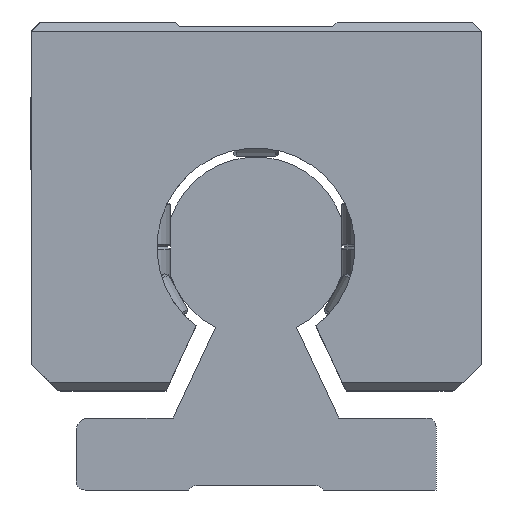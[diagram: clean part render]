
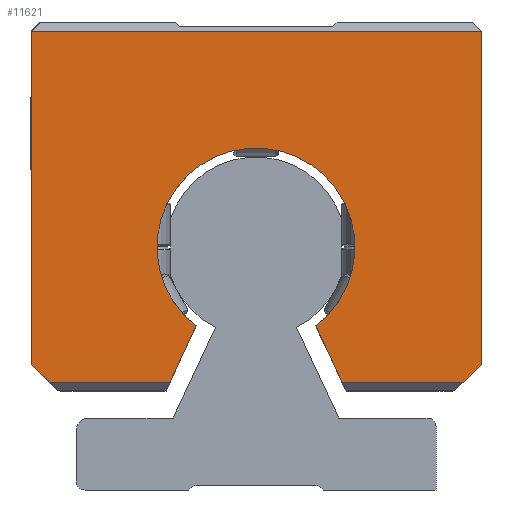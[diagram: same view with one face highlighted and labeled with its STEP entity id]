
A CAD part, left-side view. The second image highlights one B-rep face of the part: STEP entity #11621.
In plain terms, the highlighted planar face has unit normal (-1, 0, 0).
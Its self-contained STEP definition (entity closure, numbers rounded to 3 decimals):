
#10145=CARTESIAN_POINT('',(245.531,-25.,51.));
#10146=VERTEX_POINT('',#10145);
#10155=CARTESIAN_POINT('',(245.531,-25.,14.));
#10156=VERTEX_POINT('',#10155);
#10157=CARTESIAN_POINT('',(245.531,-25.,51.));
#10158=DIRECTION('',(0.0,0.0,-1.0));
#10159=VECTOR('',#10158,37.);
#10160=LINE('',#10157,#10159);
#10161=EDGE_CURVE('',#10146,#10156,#10160,.T.);
#10388=CARTESIAN_POINT('',(245.531,-6.632,18.224));
#10389=VERTEX_POINT('',#10388);
#10396=CARTESIAN_POINT('',(245.531,6.632,18.224));
#10397=VERTEX_POINT('',#10396);
#10398=CARTESIAN_POINT('',(245.531,0.,27.0));
#10399=DIRECTION('',(-1.0,0.0,0.0));
#10400=DIRECTION('',(0.0,-1.0,0.0));
#10401=AXIS2_PLACEMENT_3D('',#10398,#10399,#10400);
#10402=CIRCLE('',#10401,11.0);
#10403=EDGE_CURVE('',#10389,#10397,#10402,.T.);
#11237=CARTESIAN_POINT('',(245.531,25.,51.));
#11238=VERTEX_POINT('',#11237);
#11245=CARTESIAN_POINT('',(245.531,25.,51.));
#11246=DIRECTION('',(0.0,-1.0,0.0));
#11247=VECTOR('',#11246,50.0);
#11248=LINE('',#11245,#11247);
#11249=EDGE_CURVE('',#11238,#10146,#11248,.T.);
#11259=CARTESIAN_POINT('',(245.531,23.,12.));
#11260=VERTEX_POINT('',#11259);
#11277=CARTESIAN_POINT('',(245.531,9.534,12.));
#11278=VERTEX_POINT('',#11277);
#11285=CARTESIAN_POINT('',(245.531,9.534,12.));
#11286=DIRECTION('',(0.0,1.0,0.0));
#11287=VECTOR('',#11286,13.466);
#11288=LINE('',#11285,#11287);
#11289=EDGE_CURVE('',#11278,#11260,#11288,.T.);
#11354=CARTESIAN_POINT('',(245.531,25.,14.));
#11355=VERTEX_POINT('',#11354);
#11356=CARTESIAN_POINT('',(245.531,23.,12.));
#11357=DIRECTION('',(0.0,0.707,0.707));
#11358=VECTOR('',#11357,2.828);
#11359=LINE('',#11356,#11358);
#11360=EDGE_CURVE('',#11260,#11355,#11359,.T.);
#11547=CARTESIAN_POINT('',(245.531,-23.,12.));
#11548=VERTEX_POINT('',#11547);
#11549=CARTESIAN_POINT('',(245.531,-25.,14.));
#11550=DIRECTION('',(0.0,0.707,-0.707));
#11551=VECTOR('',#11550,2.828);
#11552=LINE('',#11549,#11551);
#11553=EDGE_CURVE('',#10156,#11548,#11552,.T.);
#11571=CARTESIAN_POINT('',(245.531,-9.534,12.));
#11572=VERTEX_POINT('',#11571);
#11573=CARTESIAN_POINT('',(245.531,-23.,12.));
#11574=DIRECTION('',(0.0,1.0,0.0));
#11575=VECTOR('',#11574,13.466);
#11576=LINE('',#11573,#11575);
#11577=EDGE_CURVE('',#11548,#11572,#11576,.T.);
#11589=CARTESIAN_POINT('',(245.531,-17.,51.75));
#11590=DIRECTION('',(1.0,0.0,0.0));
#11591=DIRECTION('',(0.0,0.0,-1.0));
#11592=AXIS2_PLACEMENT_3D('',#11589,#11590,#11591);
#11593=PLANE('',#11592);
#11594=ORIENTED_EDGE('',*,*,#11289,.F.);
#11595=CARTESIAN_POINT('',(245.531,6.632,18.224));
#11596=DIRECTION('',(0.0,0.423,-0.906));
#11597=VECTOR('',#11596,6.867);
#11598=LINE('',#11595,#11597);
#11599=EDGE_CURVE('',#10397,#11278,#11598,.T.);
#11600=ORIENTED_EDGE('',*,*,#11599,.F.);
#11601=ORIENTED_EDGE('',*,*,#10403,.F.);
#11602=CARTESIAN_POINT('',(245.531,-9.534,12.));
#11603=DIRECTION('',(0.0,0.423,0.906));
#11604=VECTOR('',#11603,6.867);
#11605=LINE('',#11602,#11604);
#11606=EDGE_CURVE('',#11572,#10389,#11605,.T.);
#11607=ORIENTED_EDGE('',*,*,#11606,.F.);
#11608=ORIENTED_EDGE('',*,*,#11577,.F.);
#11609=ORIENTED_EDGE('',*,*,#11553,.F.);
#11610=ORIENTED_EDGE('',*,*,#10161,.F.);
#11611=ORIENTED_EDGE('',*,*,#11249,.F.);
#11612=CARTESIAN_POINT('',(245.531,25.,14.));
#11613=DIRECTION('',(0.0,0.0,1.0));
#11614=VECTOR('',#11613,37.);
#11615=LINE('',#11612,#11614);
#11616=EDGE_CURVE('',#11355,#11238,#11615,.T.);
#11617=ORIENTED_EDGE('',*,*,#11616,.F.);
#11618=ORIENTED_EDGE('',*,*,#11360,.F.);
#11619=EDGE_LOOP('',(#11594,#11600,#11601,#11607,#11608,#11609,#11610,#11611,#11617,#11618));
#11620=FACE_OUTER_BOUND('',#11619,.T.);
#11621=ADVANCED_FACE('',(#11620),#11593,.F.);
